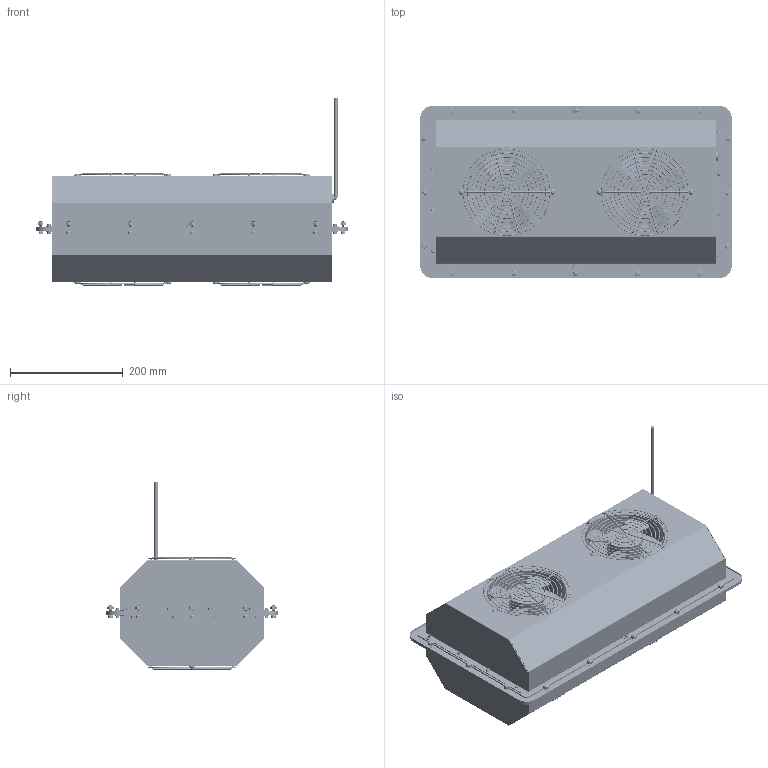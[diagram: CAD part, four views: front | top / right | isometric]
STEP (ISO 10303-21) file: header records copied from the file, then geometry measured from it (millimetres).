
FILE_DESCRIPTION(/* description */ (''),/* implementation_level */ '2;1');
FILE_NAME(/* name */ 'D:/CAD/PKS Mini/PKS Mini 3092.step',/* time_stamp */ '2020-09-30T10:27:46-04:00',/* author */ (''),/* organization */ (''),/* preprocessor_version */ 'ST-DEVELOPER v18.1',/* originating_system */ 'Autodesk Translation Framework v9.3.0.1241',/* authorisation */ '');
FILE_SCHEMA (('AUTOMOTIVE_DESIGN { 1 0 10303 214 3 1 1 }'));
Length unit declared in the file: inch
Products named in the file (17): PKS Mini 3092; CM1000 Base; 45 Cover Standard with Ground Stud; 45 Cover Standard with Ground Stud and Cord Grip Hole; Cord; 5915pc-s00 NMB Fan_Vychoz¡; 19155K127 Fan Guard_19155K127; 632X250BOLTWITHLOCKWASHERASSY; 92196A144 632 SHCS 25 LONG 1_92196A144; 92147A420 632 LOCK WASHER 1_92147A420; 1032X750BOLTASSY; 92196A272 1032 x 750 shcs_92196A272; 92141A011 1032 Washer_92141A011; 91831A411 1032 Nylock Nut_91831A411; 832 FAN BOLT ASSY; 92949A207 832 Button Head SHCS 2 Inch Long_92949A207; 91831A009 832 Nylock Nut_91831A009
Assembly tree (63 placements, depth 3):
  PKS Mini 3092
    CM1000 Base
    45 Cover Standard with Ground Stud
    45 Cover Standard with Ground Stud and Cord Grip Hole
    Cord
    5915pc-s00 NMB Fan_Vychoz¡  x4
    19155K127 Fan Guard_19155K127  x4
    632X250BOLTWITHLOCKWASHERASSY  x20
      92196A144 632 SHCS 25 LONG 1_92196A144
      92147A420 632 LOCK WASHER 1_92147A420
    1032X750BOLTASSY  x16
      92196A272 1032 x 750 shcs_92196A272
      92141A011 1032 Washer_92141A011
      91831A411 1032 Nylock Nut_91831A411
    832 FAN BOLT ASSY  x8
      92949A207 832 Button Head SHCS 2 Inch Long_92949A207
      91831A009 832 Nylock Nut_91831A009
Bounding box: 552.45 x 304.8 x 331.93 mm (x, y, z)
Volume: 2739946.9 mm3; surface area: 1607591.7 mm2
Topology: 192 solids, 192 shells, 5037 faces, 12613 edges, 8047 vertices
Faces by surface type: cylinder 2411, plane 1187, cone 1098, torus 185, bspline 148, sphere 8
Full cylindrical faces by diameter (mm): 2.3 x64, 2.474 x140, 2.705 x20, 3.134 x224, 3.452 x8, 3.505 x140, 3.551 x40, 3.795 x368, 4.091 x16, 4.166 x258, 4.178 x80, 4.3 x16, 4.305 x20, 4.762 x8, 4.826 x448, 5.099 x8, 5.105 x16, 5.156 x16, 5.74 x20, 5.816 x16, 6.35 x3, 7.925 x8, 7.938 x16, 11.112 x16, 15.875 x2, 63.5 x4, 68.58 x4, 142.5 x4
Entity records: 32490 total; most frequent: CARTESIAN_POINT 13752, ORIENTED_EDGE 3842, DIRECTION 3751, EDGE_CURVE 1921, AXIS2_PLACEMENT_3D 1419, VERTEX_POINT 1254, LINE 913, VECTOR 913
